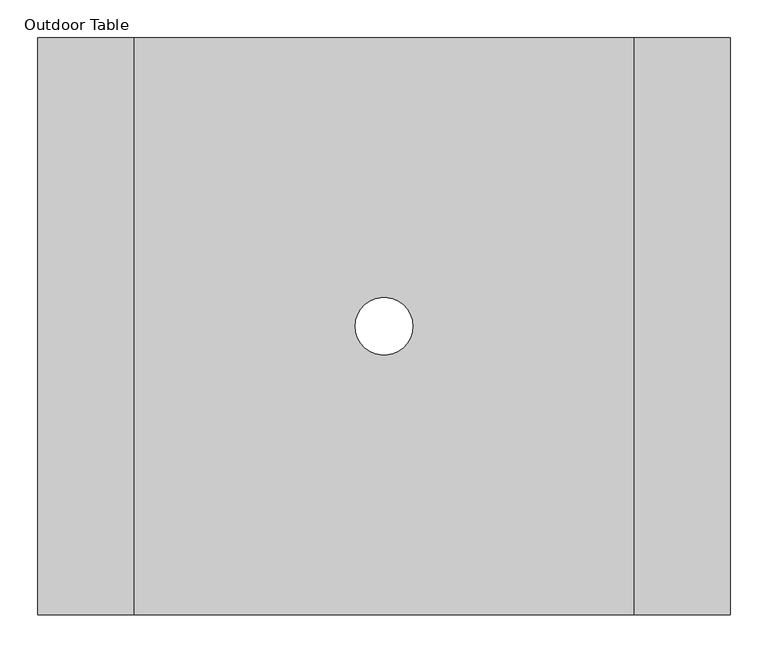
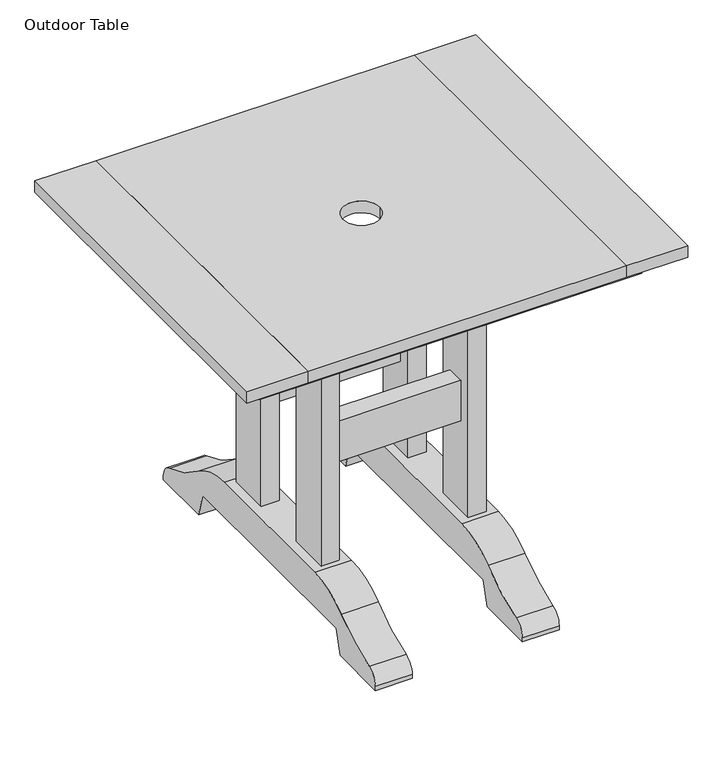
"""IFC4 building model written with IfcOpenShell, lengths in millimetres: furniture geometry."""

from ifc_helpers import new_model, si_unit, point, frame, frame_2d, origin, origin_2d, place, context, project, spatial, polyline, circle_curve, trimmed, segment, composite_curve, outline, extrude, source, transform, mapped, element, save


def outdoor_table_2cdf0183(model_context):
    return source(origin(), model_context, "Body", "SweptSolid", [
        extrude(outline(composite_curve([segment(polyline([(-381.0, 0.0), (-381.0, 9.0006443)]), True, "CONTINUOUS"), segment(trimmed(circle_curve(frame_2d((-349.25, 9.0006443)), 31.75), [point((-381.0, 9.0006443))], [point((-358.7294753, 39.3024932))], False, "CARTESIAN"), True, "CONTINUOUS"), segment(trimmed(circle_curve(frame_2d((-449.7324385, 330.2002428)), 304.8), [point((-358.7294753, 39.3024932))], [point((-258.1538415, 93.1334143))], True, "CARTESIAN"), True, "CONTINUOUS"), segment(trimmed(circle_curve(frame_2d((-162.3645431, -25.4)), 152.4), [point((-258.1538415, 93.1334143))], [point((-162.3645431, 127.0))], False, "CARTESIAN"), True, "CONTINUOUS"), segment(polyline([(-162.3645431, 127.0), (162.3645431, 127.0)]), True, "CONTINUOUS"), segment(trimmed(circle_curve(frame_2d((162.3645431, -25.4)), 152.4), [point((162.3645431, 127.0))], [point((258.1538415, 93.1334143))], False, "CARTESIAN"), True, "CONTINUOUS"), segment(trimmed(circle_curve(frame_2d((449.7324385, 330.2002428)), 304.8), [point((258.1538415, 93.1334143))], [point((358.7294753, 39.3024932))], True, "CARTESIAN"), True, "CONTINUOUS"), segment(trimmed(circle_curve(frame_2d((349.25, 9.0006443)), 31.75), [point((358.7294753, 39.3024932))], [point((381.0, 9.0006443))], False, "CARTESIAN"), True, "CONTINUOUS"), segment(polyline([(381.0, 9.0006443), (381.0, 0.0), (254.0, 0.0), (240.388181, 50.8), (-240.388181, 50.8), (-254.0, 0.0), (-381.0, 0.0)]), True, "CONTINUOUS")], self_intersect=False)), frame((114.3, 0.0, 0.0), z_axis=(1.0, 0.0, 0.0), x_axis=(0.0, 1.0, 0.0)), (0.0, 0.0, 1.0), 76.2),
        extrude(outline(polyline([(171.45, -63.5), (171.45, -152.4), (133.35, -152.4), (133.35, -63.5), (171.45, -63.5)])), frame((0.0, 0.0, 127.0), z_axis=(0.0, 0.0, 1.0), x_axis=(1.0, 0.0, 0.0)), (0.0, 0.0, 1.0), 596.9),
        extrude(outline(polyline([(171.45, 152.4), (171.45, 63.5), (133.35, 63.5), (133.35, 152.4), (171.45, 152.4)])), frame((0.0, 0.0, 127.0), z_axis=(0.0, 0.0, 1.0), x_axis=(1.0, 0.0, 0.0)), (0.0, 0.0, 1.0), 596.9),
        extrude(outline(composite_curve([segment(polyline([(-381.0, 0.0), (-381.0, 9.0006443)]), True, "CONTINUOUS"), segment(trimmed(circle_curve(frame_2d((-349.25, 9.0006443)), 31.75), [point((-381.0, 9.0006443))], [point((-358.7294753, 39.3024932))], False, "CARTESIAN"), True, "CONTINUOUS"), segment(trimmed(circle_curve(frame_2d((-449.7324385, 330.2002428)), 304.8), [point((-358.7294753, 39.3024932))], [point((-258.1538415, 93.1334143))], True, "CARTESIAN"), True, "CONTINUOUS"), segment(trimmed(circle_curve(frame_2d((-162.3645431, -25.4)), 152.4), [point((-258.1538415, 93.1334143))], [point((-162.3645431, 127.0))], False, "CARTESIAN"), True, "CONTINUOUS"), segment(polyline([(-162.3645431, 127.0), (162.3645431, 127.0)]), True, "CONTINUOUS"), segment(trimmed(circle_curve(frame_2d((162.3645431, -25.4)), 152.4), [point((162.3645431, 127.0))], [point((258.1538415, 93.1334143))], False, "CARTESIAN"), True, "CONTINUOUS"), segment(trimmed(circle_curve(frame_2d((449.7324385, 330.2002428)), 304.8), [point((258.1538415, 93.1334143))], [point((358.7294753, 39.3024932))], True, "CARTESIAN"), True, "CONTINUOUS"), segment(trimmed(circle_curve(frame_2d((349.25, 9.0006443)), 31.75), [point((358.7294753, 39.3024932))], [point((381.0, 9.0006443))], False, "CARTESIAN"), True, "CONTINUOUS"), segment(polyline([(381.0, 9.0006443), (381.0, 0.0), (254.0, 0.0), (240.388181, 50.8), (-240.388181, 50.8), (-254.0, 0.0), (-381.0, 0.0)]), True, "CONTINUOUS")], self_intersect=False)), frame((-190.5, 0.0, 0.0), z_axis=(1.0, 0.0, 0.0), x_axis=(0.0, 1.0, 0.0)), (0.0, 0.0, 1.0), 76.2),
        extrude(outline(polyline([(-133.35, -63.5), (-133.35, -152.4), (-171.45, -152.4), (-171.45, -63.5), (-133.35, -63.5)])), frame((0.0, 0.0, 127.0), z_axis=(0.0, 0.0, 1.0), x_axis=(1.0, 0.0, 0.0)), (0.0, 0.0, 1.0), 596.9),
        extrude(outline(polyline([(-133.35, 152.4), (-133.35, 63.5), (-171.45, 63.5), (-171.45, 152.4), (-133.35, 152.4)])), frame((0.0, 0.0, 127.0), z_axis=(0.0, 0.0, 1.0), x_axis=(1.0, 0.0, 0.0)), (0.0, 0.0, 1.0), 596.9),
        extrude(outline(polyline([(396.875, 320.675), (396.875, -320.675), (-396.875, -320.675), (-396.875, 320.675), (396.875, 320.675)]), holes=[polyline([(381.0, 304.8), (-381.0, 304.8), (-381.0, -304.8), (381.0, -304.8), (381.0, 304.8)])]), frame((0.0, 0.0, 673.1), z_axis=(0.0, 0.0, 1.0), x_axis=(1.0, 0.0, 0.0)), (0.0, 0.0, 1.0), 50.8),
        extrude(outline(polyline([(133.35, 127.0), (133.35, 88.9), (-133.35, 88.9), (-133.35, 127.0), (133.35, 127.0)])), frame((0.0, 0.0, 323.85), z_axis=(0.0, 0.0, 1.0), x_axis=(1.0, 0.0, 0.0)), (0.0, 0.0, 1.0), 88.9),
        extrude(outline(polyline([(133.35, -88.9), (133.35, -127.0), (-133.35, -127.0), (-133.35, -88.9), (133.35, -88.9)])), frame((0.0, 0.0, 323.85), z_axis=(0.0, 0.0, 1.0), x_axis=(1.0, 0.0, 0.0)), (0.0, 0.0, 1.0), 88.9),
        extrude(outline(polyline([(330.2, 381.0), (330.2, -381.0), (-330.2, -381.0), (-330.2, 381.0), (330.2, 381.0)]), holes=[composite_curve([segment(trimmed(circle_curve(origin_2d(), 38.1), [point((38.1, 0.0))], [point((-38.1, 0.0))], True, "CARTESIAN"), True, "CONTINUOUS"), segment(trimmed(circle_curve(origin_2d(), 38.1), [point((-38.1, 0.0))], [point((38.1, 0.0))], True, "CARTESIAN"), True, "CONTINUOUS")], self_intersect=False)]), frame((0.0, 0.0, 723.9), z_axis=(0.0, 0.0, 1.0), x_axis=(1.0, 0.0, 0.0)), (0.0, 0.0, 1.0), 25.4),
        extrude(outline(polyline([(-330.2, 381.0), (-330.2, -381.0), (-457.2, -381.0), (-457.2, 381.0), (-330.2, 381.0)])), frame((0.0, 0.0, 723.9), z_axis=(0.0, 0.0, 1.0), x_axis=(1.0, 0.0, 0.0)), (0.0, 0.0, 1.0), 25.4),
        extrude(outline(polyline([(457.2, 381.0), (457.2, -381.0), (330.2, -381.0), (330.2, 381.0), (457.2, 381.0)])), frame((0.0, 0.0, 723.9), z_axis=(0.0, 0.0, 1.0), x_axis=(1.0, 0.0, 0.0)), (0.0, 0.0, 1.0), 25.4),
    ])


if __name__ == "__main__":
    model = new_model("IFC4")
    model_context = context("Model", 3, world=origin())
    ifc_project = project(units=[si_unit("LENGTHUNIT", "METRE", prefix="MILLI")], contexts=[model_context])
    site = spatial("IfcSite", under=ifc_project)
    building = spatial("IfcBuilding", under=site)
    placement = place(None, origin())
    outdoor_table_shape = outdoor_table_2cdf0183(model_context)
    element("IfcFurniture", 1, ObjectType="Outdoor Table : 3'-0\"L x 2'-6\"W", at=placement, inside=building, context=model_context, shape_type="MappedRepresentation", body=[
        mapped(outdoor_table_shape, transform((0.0, 0.0, 0.0), x_axis=(1.0, 0.0, 0.0), y_axis=(0.0, 1.0, 0.0), z_axis=(0.0, 0.0, 1.0))),
    ])
    save(model, "model.ifc")
